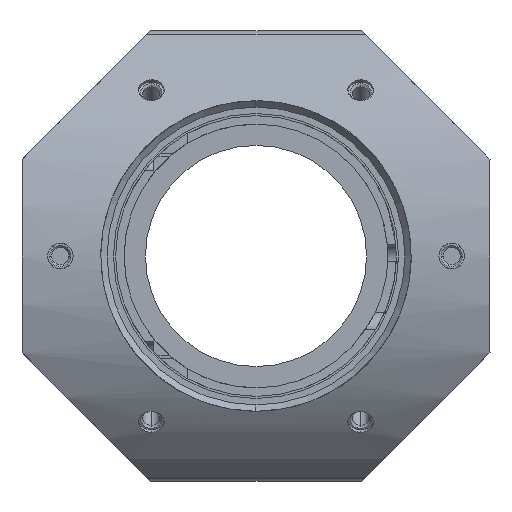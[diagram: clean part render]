
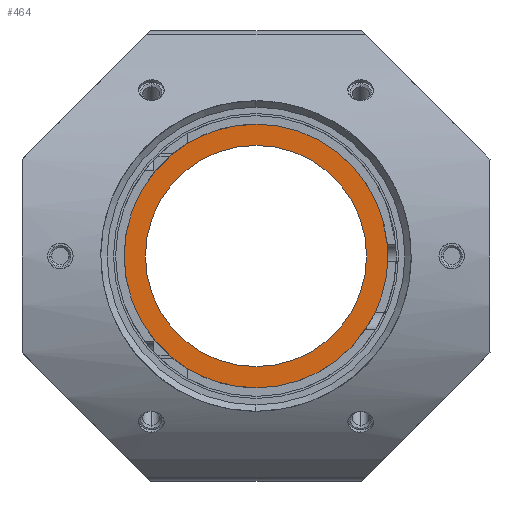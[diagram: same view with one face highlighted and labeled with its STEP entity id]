
A CAD part, front view. The second image highlights one B-rep face of the part: STEP entity #464.
In plain terms, the highlighted planar face has unit normal (0, -1, 0).
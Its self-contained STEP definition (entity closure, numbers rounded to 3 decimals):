
#464=ADVANCED_FACE('',(#925,#699),#2426,.T.);
#699=FACE_OUTER_BOUND('',#995,.F.);
#925=FACE_BOUND('',#994,.F.);
#994=EDGE_LOOP('',(#1399,#1400));
#995=EDGE_LOOP('',(#1401,#1402,#1403,#1404));
#1399=ORIENTED_EDGE('',*,*,#5044,.F.);
#1400=ORIENTED_EDGE('',*,*,#5043,.F.);
#1401=ORIENTED_EDGE('',*,*,#5076,.T.);
#1402=ORIENTED_EDGE('',*,*,#5073,.T.);
#1403=ORIENTED_EDGE('',*,*,#5072,.T.);
#1404=ORIENTED_EDGE('',*,*,#5071,.T.);
#2426=PLANE('',#6047);
#4662=CIRCLE('',#5915,13.);
#4663=CIRCLE('',#5916,13.);
#4676=CIRCLE('',#5929,15.5);
#4677=CIRCLE('',#5930,15.5);
#4678=CIRCLE('',#5931,15.5);
#4679=CIRCLE('',#5932,15.5);
#5043=EDGE_CURVE('',#5601,#5600,#4662,.T.);
#5044=EDGE_CURVE('',#5600,#5601,#4663,.T.);
#5071=EDGE_CURVE('',#5604,#5602,#4676,.T.);
#5072=EDGE_CURVE('',#5587,#5604,#4677,.T.);
#5073=EDGE_CURVE('',#5586,#5587,#4678,.T.);
#5076=EDGE_CURVE('',#5602,#5586,#4679,.T.);
#5586=VERTEX_POINT('',#7650);
#5587=VERTEX_POINT('',#7651);
#5600=VERTEX_POINT('',#7664);
#5601=VERTEX_POINT('',#7665);
#5602=VERTEX_POINT('',#7666);
#5604=VERTEX_POINT('',#7668);
#5915=AXIS2_PLACEMENT_3D('',#8708,#6531,#6532);
#5916=AXIS2_PLACEMENT_3D('',#8709,#6533,#6534);
#5929=AXIS2_PLACEMENT_3D('',#8736,#6573,#6574);
#5930=AXIS2_PLACEMENT_3D('',#8737,#6575,#6576);
#5931=AXIS2_PLACEMENT_3D('',#8738,#6577,#6578);
#5932=AXIS2_PLACEMENT_3D('',#8741,#6581,#6582);
#6047=AXIS2_PLACEMENT_3D('',#8996,#6951,#6952);
#6531=DIRECTION('',(0.,1.,0.));
#6532=DIRECTION('',(0.,0.,1.));
#6533=DIRECTION('',(0.,1.,0.));
#6534=DIRECTION('',(0.,0.,-1.));
#6573=DIRECTION('',(0.,1.,0.));
#6574=DIRECTION('',(0.999,0.,-0.04));
#6575=DIRECTION('',(0.,1.,0.));
#6576=DIRECTION('',(0.,0.,1.));
#6577=DIRECTION('',(0.,1.,0.));
#6578=DIRECTION('',(0.,0.,-1.));
#6581=DIRECTION('',(0.,1.,0.));
#6582=DIRECTION('',(0.904,0.,-0.427));
#6951=DIRECTION('',(0.,-1.,0.));
#6952=DIRECTION('',(1.,0.,0.));
#7650=CARTESIAN_POINT('',(-157.5,-12.5,-15.5));
#7651=CARTESIAN_POINT('',(-157.5,-12.5,15.5));
#7664=CARTESIAN_POINT('',(-157.5,-12.5,-13.));
#7665=CARTESIAN_POINT('',(-157.5,-12.5,13.));
#7666=CARTESIAN_POINT('',(-143.487,-12.5,-6.625));
#7668=CARTESIAN_POINT('',(-142.013,-12.5,-0.625));
#8708=CARTESIAN_POINT('',(-157.5,-12.5,0.));
#8709=CARTESIAN_POINT('',(-157.5,-12.5,0.));
#8736=CARTESIAN_POINT('',(-157.5,-12.5,0.));
#8737=CARTESIAN_POINT('',(-157.5,-12.5,0.));
#8738=CARTESIAN_POINT('',(-157.5,-12.5,0.));
#8741=CARTESIAN_POINT('',(-157.5,-12.5,0.));
#8996=CARTESIAN_POINT('',(-173.31,-12.5,15.81));
